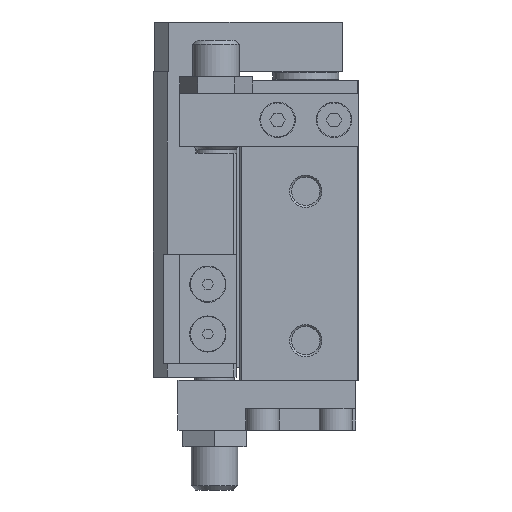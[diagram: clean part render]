
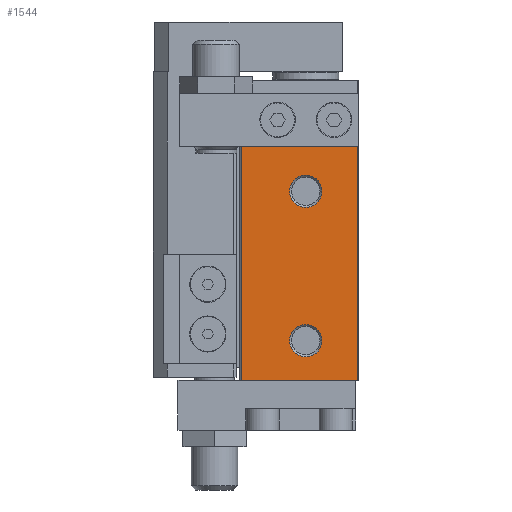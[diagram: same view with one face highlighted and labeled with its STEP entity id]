
A CAD part, left-side view. The second image highlights one B-rep face of the part: STEP entity #1544.
In plain terms, the highlighted planar face has unit normal (-1, 0, 0).
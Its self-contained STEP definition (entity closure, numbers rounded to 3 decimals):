
#1544 = ADVANCED_FACE( '', ( #3372, #3373, #3374 ), #3375, .T. );
#3372 = FACE_BOUND( '', #5473, .T. );
#3373 = FACE_BOUND( '', #5474, .T. );
#3374 = FACE_OUTER_BOUND( '', #5475, .T. );
#3375 = PLANE( '', #5476 );
#5473 = EDGE_LOOP( '', ( #9578 ) );
#5474 = EDGE_LOOP( '', ( #9579 ) );
#5475 = EDGE_LOOP( '', ( #9580, #9581, #9582, #9583 ) );
#5476 = AXIS2_PLACEMENT_3D( '', #9584, #9585, #9586 );
#9578 = ORIENTED_EDGE( '', *, *, #12549, .T. );
#9579 = ORIENTED_EDGE( '', *, *, #12901, .T. );
#9580 = ORIENTED_EDGE( '', *, *, #12993, .T. );
#9581 = ORIENTED_EDGE( '', *, *, #11531, .F. );
#9582 = ORIENTED_EDGE( '', *, *, #12994, .F. );
#9583 = ORIENTED_EDGE( '', *, *, #11717, .T. );
#9584 = CARTESIAN_POINT( '', ( -43., 35.505, -90.5 ) );
#9585 = DIRECTION( '', ( -1., 0., 0. ) );
#9586 = DIRECTION( '', ( 0., 0., 1. ) );
#11531 = EDGE_CURVE( '', #13614, #13615, #13616, .T. );
#11717 = EDGE_CURVE( '', #13856, #13948, #13950, .T. );
#12549 = EDGE_CURVE( '', #15264, #15264, #15265, .T. );
#12901 = EDGE_CURVE( '', #15762, #15762, #15763, .T. );
#12993 = EDGE_CURVE( '', #13948, #13615, #15887, .T. );
#12994 = EDGE_CURVE( '', #13856, #13614, #15888, .T. );
#13614 = VERTEX_POINT( '', #16653 );
#13615 = VERTEX_POINT( '', #16654 );
#13616 = LINE( '', #16655, #16656 );
#13856 = VERTEX_POINT( '', #16972 );
#13948 = VERTEX_POINT( '', #17090 );
#13950 = LINE( '', #17093, #17094 );
#15264 = VERTEX_POINT( '', #18921 );
#15265 = CIRCLE( '', #18922, 4.864 );
#15762 = VERTEX_POINT( '', #19619 );
#15763 = CIRCLE( '', #19620, 4.864 );
#15887 = LINE( '', #19792, #19793 );
#15888 = LINE( '', #19794, #19795 );
#16653 = CARTESIAN_POINT( '', ( -43., 35.505, -20. ) );
#16654 = CARTESIAN_POINT( '', ( -43., 0.495, -20. ) );
#16655 = CARTESIAN_POINT( '', ( -43., 36., -20. ) );
#16656 = VECTOR( '', #20493, 1000. );
#16972 = CARTESIAN_POINT( '', ( -43., 35.505, -90.5 ) );
#17090 = CARTESIAN_POINT( '', ( -43., 0.495, -90.5 ) );
#17093 = CARTESIAN_POINT( '', ( -43., 35.505, -90.5 ) );
#17094 = VECTOR( '', #20759, 1000. );
#18921 = CARTESIAN_POINT( '', ( -43., 16., -83.364 ) );
#18922 = AXIS2_PLACEMENT_3D( '', #21600, #21601, #21602 );
#19619 = CARTESIAN_POINT( '', ( -43., 16., -38.364 ) );
#19620 = AXIS2_PLACEMENT_3D( '', #21926, #21927, #21928 );
#19792 = CARTESIAN_POINT( '', ( -43., 0.495, -90.5 ) );
#19793 = VECTOR( '', #22022, 1000. );
#19794 = CARTESIAN_POINT( '', ( -43., 35.505, -90.5 ) );
#19795 = VECTOR( '', #22023, 1000. );
#20493 = DIRECTION( '', ( 0., -1., 0. ) );
#20759 = DIRECTION( '', ( 0., -1., 0. ) );
#21600 = CARTESIAN_POINT( '', ( -43., 16., -78.5 ) );
#21601 = DIRECTION( '', ( 1., 0., 0. ) );
#21602 = DIRECTION( '', ( 0., 0., -1. ) );
#21926 = CARTESIAN_POINT( '', ( -43., 16., -33.5 ) );
#21927 = DIRECTION( '', ( 1., 0., 0. ) );
#21928 = DIRECTION( '', ( 0., 0., -1. ) );
#22022 = DIRECTION( '', ( 0., 0., 1. ) );
#22023 = DIRECTION( '', ( 0., 0., 1. ) );
